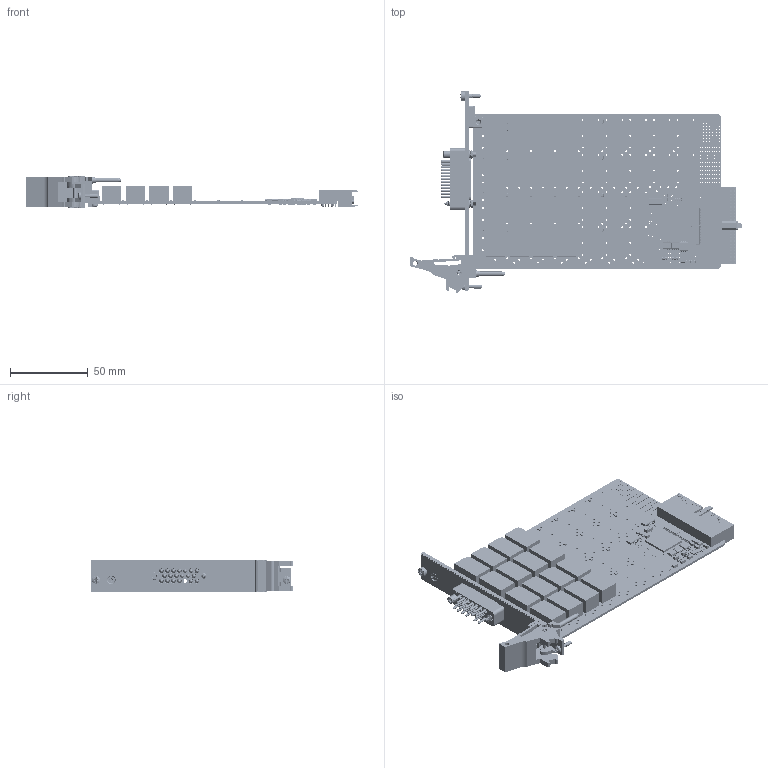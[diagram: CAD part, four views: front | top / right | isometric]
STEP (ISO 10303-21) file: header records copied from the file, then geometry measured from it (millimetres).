
FILE_DESCRIPTION (( 'STEP AP214' ), '1' );
FILE_NAME ('40-661B-102 PXI Power Multiplexer 10A 2-Bank 8-Channel.step', '2025-09-05T13:13:10', ( '' ), ( '' ), 'SwSTEP 2.0', 'SolidWorks 2023', '' );
FILE_SCHEMA (( 'AUTOMOTIVE_DESIGN' ));
Length unit declared in the file: millimetre
Products named in the file (60): C-IC-546 24 BIT BUS SWITCH 56PIN TVSOP; C-CP-034; C-CN-502 Male Connector Mount; C-RS-152 Res 10K 0603 1-16W 1% 300PPM; C-CP-139 CAP 4.7UF 1206 16V X7R 10%; A-FP-268 FP +  Label Assembly; C-RS-521 Res 120R (0603) 1-16W 1% 100pp; C-RL-155 Relay DK1a-5V_With Out Text; C-IC-598 64Mbit Flash Memory 8-Pin SOIC; C-FX-165 Handle Finger; C-CP-175 CAP 22uF 1206 25V X5R 10%; C-IC-369 FPGA 17000 Cells 65nm Technology 1.2V 256-Pin FTBGA; C-CP-099 CAP 0.1uF 16V 0402 SMT; A-FP-268-L1 PXI 1xMS PWR FP Full Assembly; 40-661B-102 PXI Power Multiplexer 10A 2-Bank 8-Channel; C-FX-1176 M2,5 Collar Posi-Slot Screw; C-FP-268 FP PXI 1-Slot 1xMS Power C; C-PC-1676  HD 10A MUX; C-FX-165 Handle Pin; L-FX-165 PXI Handle Label; C-CP-130 CAP 1uF CERAMIC SMT 0603; C-FX-101 Screw, M2.5 x 6, Pan Hd, Pozi, Steel, BZP; C-IC-425 SOICN 8PIN SD; C-FX-165 CPCI Ejector Handle; C-CN-502 female Mount pin; A-PC-1676-V01-# High Density 10A Power Multiplexer; Z-FX-2001 FP Fixing - Bush + Screw; C-RS-147 Res 100R 0603 1-16W 1% 100PPM; C-IC-489 F-RAM Semiconductor Serial-I2C FRAM Memory 512kbit 2-3.6 V 8-Pin SOIC; P-FX-017 M2,5 Collar Posi-Slot Screw; C-CN-502 Positronic Connector Nut; C-CN-502  Positronic Connector Body; C-IC-442 VSSOP 8PIN SD; L-FP-268 PXI FP Label assy; C-SC-056 80V 250mA (DC) SOD323 Diode; C-CN-502 Positronic Connector Washer; C-CN-502  Positronic Connector Assembly; C-MS-803 BEAD 120R 0603 2A 0R05 25%; C-CN-107-BODY; C-RS-659 RES NW 4K7 4RES 8PINS SMT1206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
Assembly tree (211 placements, depth 5):
  40-661B-102 PXI Power Multiplexer 10A 2-Bank 8-Channel
    A-PC-1676-V01 High Density 10A Power Multiplexer
      A-PC-1676-V01-# High Density 10A Power Multiplexer
        C-PC-1676  HD 10A MUX
        C-RS-152 Res 10K 0603 1-16W 1% 300PPM  x2
        C-CP-099 CAP 0.1uF 16V 0402 SMT  x12
        C-CP-124 CAP 10nF CERAMIC SMT 0402  x29
        C-IC-458 LDO VOLTAGE REGULATOR 1.2V SOT
        C-MS-803 BEAD 120R 0603 2A 0R05 25%  x2
        C-CP-034  x18
        C-CP-130 CAP 1uF CERAMIC SMT 0603  x2
        C-CP-175 CAP 22uF 1206 25V X5R 10%  x2
        C-CP-139 CAP 4.7UF 1206 16V X7R 10%  x2
        C-SC-168 SOT363 Complementary MOSFET 20V-8V  x2
        C-IC-550 Voltage Difference Amplifier  x2
        C-RL-155 Relay DK1a-5V_With Out Text  x16
        C-RS-190 Res 0R0 SIZE 0603 SMT  x3
        C-SC-056 80V 250mA (DC) SOD323 Diode  x32
        C-IC-489 F-RAM Semiconductor Serial-I2C FRAM Memory 512kbit 2-3.6 V 8-Pin SOIC
        C-IC-425 SOICN 8PIN SD
        C-IC-598 64Mbit Flash Memory 8-Pin SOIC
        C-IC-442 VSSOP 8PIN SD
        C-IC-546 24 BIT BUS SWITCH 56PIN TVSOP  x2
        C-IC-369 FPGA 17000 Cells 65nm Technology 1.2V 256-Pin FTBGA
        C-RS-148 Res 1K 0603 1-16W 1% 100PPM  x2
        C-RS-659 RES NW 4K7 4RES 8PINS SMT1206  x4
        C-RS-521 Res 120R (0603) 1-16W 1% 100pp
        C-RS-147 Res 100R 0603 1-16W 1% 100PPM
        C-SC-146 Dual Transistor SOT-14  x2
        C-CN-1071
          C-CN-107-BODY
          C-CN-107-PIN  x8
        C-CP-141 CAP 10UF 1206 35V X5R 10%  x6
        C-CP-239  Power Line Filter  x2
        C-CN-355 Compact pci connector 3
    A-FP-268-L1 PXI 1xMS PWR FP Full Assembly
      A-FP-268 FP +  Label Assembly
        C-FP-268 FP PXI 1-Slot 1xMS Power C
          C-BP-015 PXI 3U x 1 Slot Blank Panel
        L-FP-268 PXI FP Label assy
          L-FP-268-# PXI FP Label
      Z-FX-2001 FP Fixing - Bush + Screw
        C-BK-026 Bush Front Panel Mounting
        C-FX-1176 M2,5 Collar Posi-Slot Screw
      C-FX-165 CPCI Ejector Handle
        C-FX-165 Handle Body
        C-FX-165 Handle Finger
        C-FX-165 Handle Pin
        P-FX-017 M2,5 Collar Posi-Slot Screw
        L-FX-165 PXI Handle Label
      C-FX-025 Pcb Mounting Bracket
      C-FX-042 Screw M2.5x6 CSK Pozi_M 2.5x06 - C-FX-042
      C-FX-101 Screw, M2.5 x 6, Pan Hd, Pozi, Steel, BZP
    C-CN-502  Positronic Connector Assembly
      C-CN-502  Positronic Connector Body
      C-CN-502 female Mount pin
      C-CN-502 Male Connector Mount
      C-CN-502 Positronic Connector Washer  x2
      C-CN-502 Positronic Connector Nut  x2
    C-CN-1284 POSITRONIC MALE CONTACT 20AWG  x19
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Bounding box: 213.7 x 129.63 x 20 mm (x, y, z)
Volume: 91996.1 mm3; surface area: 90458.4 mm2
Topology: 205 solids, 232 shells, 16387 faces, 39756 edges, 24597 vertices
Faces by surface type: plane 9071, cylinder 5171, torus 972, cone 681, sphere 268, bspline 224
Entity records: 370029 total; most frequent: CARTESIAN_POINT 56025, DIRECTION 50432, ORIENTED_EDGE 46602, EDGE_CURVE 23303, AXIS2_PLACEMENT_3D 18064, VERTEX_POINT 14663, VECTOR 14304, LINE 14304
